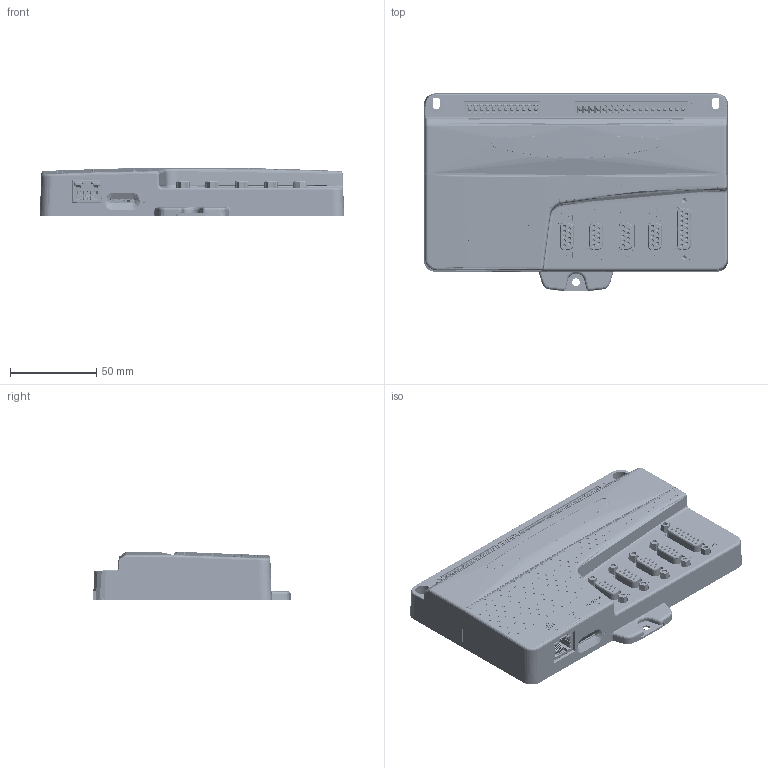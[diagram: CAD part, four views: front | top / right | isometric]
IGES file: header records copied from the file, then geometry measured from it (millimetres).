
Global section: file name: \\hyperion\sales\Graphics WIP\3D motion coords\MC404\MC404.igs; native system: Rhinoceros ( Jun 24 2020 ); preprocessor: Trout Lake IGES 012 Jun 24 2020; date: 200907.093106; units: millimetre
Bounding box: 176.52 x 114.69 x 28.2 mm (x, y, z)
Surface area: 157261.8 mm2 (no closed solid volume)
Topology: 0 solids, 0 shells, 11689 faces, 76637 edges, 76377 vertices
Faces by surface type: bspline 11689
